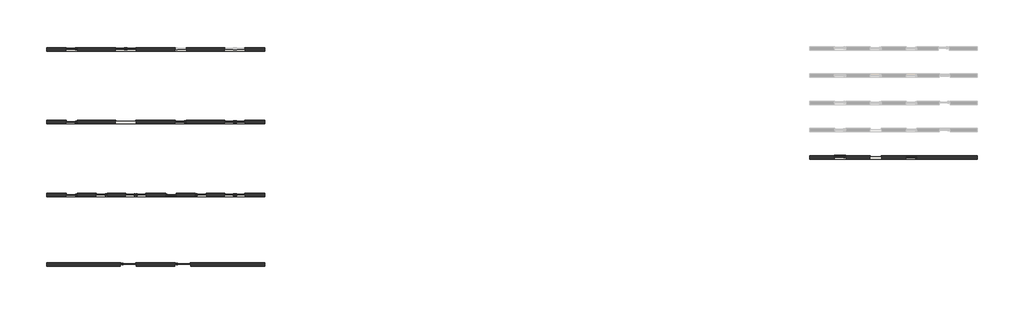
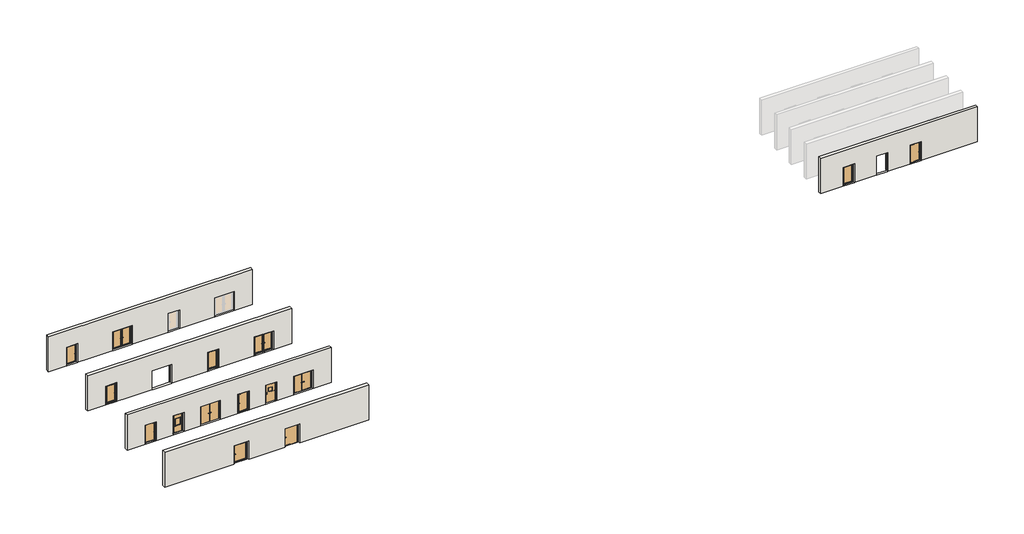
# One storey, part 1 of 2: 15 doors, 5 walls.
"""IFC4 building model written with IfcOpenShell, lengths in millimetres."""

from ifc_helpers import new_model, si_unit, origin, place, context, project, spatial, faceted_brep, transform, mapped, element, save
from components import door_5675c41e, door_eac2dd04, door_0cb914dd, door_9f1bc122, door_febc1c80, door_e621e59b, door_4a962635, door_0cf6bc7c, door_b6b952c1, door_1a9287ff, door_428c05f2, door_09428479, door_1cca69b3, door_5e71b6ac, door_3220e770

model = new_model("IFC4")

# Units and contexts
model_context = context("Model", 3, world=origin())
ifc_project = project(units=[si_unit("LENGTHUNIT", "METRE", prefix="MILLI")], contexts=[model_context])

# Site, building, storey
site = spatial("IfcSite", under=ifc_project)
building = spatial("IfcBuilding", under=site)
storey = spatial("IfcBuildingStorey", under=building, Name="REY 01 - Overview Doors", Elevation=0.0)

# Doors
placement = place(None, origin())
door_shape = door_5675c41e(model_context)
element("IfcDoor", 1, ObjectType="Reynaers_MasterLine 8_Door_Miter_Inward Opening_Double Vent : Reynaers_MasterLine 8_Door_Miter_Inward Opening_Double Vent", at=placement, inside=storey, context=model_context, shape_type="MappedRepresentation", body=[
    mapped(door_shape, transform((-1028.1752344, 9384.5590232, 0.0), x_axis=(-1.0, 0.0, 0.0), y_axis=(0.0, -1.0, 0.0), z_axis=(0.0, 0.0, 1.0))),
])
door_2_shape = door_eac2dd04(model_context)
element("IfcDoor", 2, ObjectType="Reynaers_MasterLine 8_Door_Miter_Inward Opening_Single Vent : Reynaers_MasterLine 8_Door_Miter_Inward Opening_Single Vent", at=placement, inside=storey, context=model_context, shape_type="MappedRepresentation", body=[
    mapped(door_2_shape, transform((-6478.1752344, 9384.5590232, 0.0), x_axis=(-1.0, 0.0, 0.0), y_axis=(0.0, -1.0, 0.0), z_axis=(0.0, 0.0, 1.0))),
])
door_3_shape = door_0cb914dd(model_context)
element("IfcDoor", 3, ObjectType="Reynaers_MasterLine 8_Door_Miter_Inward Opening_Single Vent : Reynaers_MasterLine 8_Door_Miter_Inward Opening_Single Vent", at=placement, inside=storey, context=model_context, shape_type="MappedRepresentation", body=[
    mapped(door_3_shape, transform((71021.8247656, -1515.4409768, 0.0), x_axis=(-1.0, 0.0, 0.0), y_axis=(0.0, -1.0, 0.0), z_axis=(0.0, 0.0, 1.0))),
])
door_4_shape = door_9f1bc122(model_context)
element("IfcDoor", 4, ObjectType="Reynaers_MasterLine 8_Door_Panel_Inward Opening_Double Vent_Double Sided : Reynaers_MasterLine 8_Door_Panel_Inward Opening_Double Vent_Double Sided", at=placement, inside=storey, context=model_context, shape_type="MappedRepresentation", body=[
    mapped(door_4_shape, transform((-28.1752344, -5264.2409768, 0.0), x_axis=(1.0, 0.0, 0.0), y_axis=(0.0, 1.0, 0.0), z_axis=(0.0, 0.0, 1.0))),
])
door_5_shape = door_febc1c80(model_context)
element("IfcDoor", 5, ObjectType="Reynaers_MasterLine 8_Door_Panel_Inward Opening_Single Vent_Double Sided : Reynaers_MasterLine 8_Door_Panel_Inward Opening_Single Vent_Double Sided", at=placement, inside=storey, context=model_context, shape_type="MappedRepresentation", body=[
    mapped(door_5_shape, transform((-6478.1752344, -5264.2409768, 0.0), x_axis=(1.0, 0.0, 0.0), y_axis=(0.0, 1.0, 0.0), z_axis=(0.0, 0.0, 1.0))),
])
door_6_shape = door_e621e59b(model_context)
element("IfcDoor", 6, ObjectType="Reynaers_MasterLine 8_Door_Panel_Inward Opening_Single Vent_Double Sided : Reynaers_MasterLine 8_Door_Panel_Inward Opening_Single Vent_Double Sided", at=placement, inside=storey, context=model_context, shape_type="MappedRepresentation", body=[
    mapped(door_6_shape, transform((78221.8247656, -1464.2409768, 0.0), x_axis=(1.0, 0.0, 0.0), y_axis=(0.0, 1.0, 0.0), z_axis=(0.0, 0.0, 1.0))),
])
door_7_shape = door_4a962635(model_context)
element("IfcDoor", 7, ObjectType="Reynaers_MasterLine 8_Door_Panel_Inward Opening_Single Vent_Spy Window : Reynaers_MasterLine 8_Door_Panel_Inward Opening_Single Vent_Spy Window", at=placement, inside=storey, context=model_context, shape_type="MappedRepresentation", body=[
    mapped(door_7_shape, transform((-3478.1752344, -5264.2409768, 0.0), x_axis=(1.0, 0.0, 0.0), y_axis=(0.0, 1.0, 0.0), z_axis=(0.0, 0.0, 1.0))),
])
door_8_shape = door_0cf6bc7c(model_context)
element("IfcDoor", 8, ObjectType="Reynaers_MasterLine 8_Door_Panel_Outward Opening_Double Vent_Double Sided : Reynaers_MasterLine 8_Door_Panel_Outward Opening_Double Vent_Double Sided", at=placement, inside=storey, context=model_context, shape_type="MappedRepresentation", body=[
    mapped(door_8_shape, transform((9971.8247656, -5264.2409768, 0.0), x_axis=(1.0, 0.0, 0.0), y_axis=(0.0, 1.0, 0.0), z_axis=(0.0, 0.0, 1.0))),
])
door_9_shape = door_b6b952c1(model_context)
element("IfcDoor", 9, ObjectType="Reynaers_MasterLine 8_Door_Panel_Outward Opening_Single Vent_Double Sided : Reynaers_MasterLine 8_Door_Panel_Outward Opening_Single Vent_Double Sided", at=placement, inside=storey, context=model_context, shape_type="MappedRepresentation", body=[
    mapped(door_9_shape, transform((3521.8247656, -5264.2409768, 0.0), x_axis=(1.0, 0.0, 0.0), y_axis=(0.0, 1.0, 0.0), z_axis=(0.0, 0.0, 1.0))),
])
door_10_shape = door_1a9287ff(model_context)
element("IfcDoor", 10, ObjectType="Reynaers_Masterline 8_Door_Panel_Outward Opening_Single Vent_Spy Window : Reynaers_Masterline 8_Door_Panel_Outward Opening_Single Vent_Spy Window", at=placement, inside=storey, context=model_context, shape_type="MappedRepresentation", body=[
    mapped(door_10_shape, transform((6521.8247656, -5264.2409768, 0.0), x_axis=(1.0, 0.0, 0.0), y_axis=(0.0, 1.0, 0.0), z_axis=(0.0, 0.0, 1.0))),
])
door_11_shape = door_428c05f2(model_context)
element("IfcDoor", 11, ObjectType="Reynaers_MasterLine 8_Door_Pivot_Inward Opening_Single Vent_Glass : Reynaers_MasterLine 8_Door_Pivot_Inward Opening_Single Vent_Glass", at=placement, inside=storey, context=model_context, shape_type="MappedRepresentation", body=[
    mapped(door_11_shape, transform((-778.1752344, -12264.2409768, 0.0), x_axis=(1.0, 0.0, 0.0), y_axis=(0.0, 1.0, 0.0), z_axis=(0.0, 0.0, 1.0))),
])
door_12_shape = door_09428479(model_context)
element("IfcDoor", 12, ObjectType="Reynaers_MasterLine 8_Door_Pivot_Inward Opening_Single Vent_Panel : Reynaers_MasterLine 8_Door_Pivot_Inward Opening_Single Vent_Panel", at=placement, inside=storey, context=model_context, shape_type="MappedRepresentation", body=[
    mapped(door_12_shape, transform((4721.8247656, -12211.2409768, 0.0), x_axis=(1.0, 0.0, 0.0), y_axis=(0.0, 1.0, 0.0), z_axis=(0.0, 0.0, 1.0))),
])
door_13_shape = door_1cca69b3(model_context)
element("IfcDoor", 13, ObjectType="Reynaers_MasterLine 8_Door_Plinth_Inward Opening_Single Vent : Reynaers_MasterLine 8_Door_Plinth_Inward Opening_Single Vent", at=placement, inside=storey, context=model_context, shape_type="MappedRepresentation", body=[
    mapped(door_13_shape, transform((-6478.1752344, 2074.5590232, 0.0), x_axis=(1.0, 0.0, 0.0), y_axis=(0.0, 1.0, 0.0), z_axis=(0.0, 0.0, 1.0))),
])
door_14_shape = door_5e71b6ac(model_context)
element("IfcDoor", 14, ObjectType="Reynaers_MasterLine 8_Door_Plinth_Outward Opening_Double Vent : Reynaers_MasterLine 8_Door_Plinth_Outward Opening_Double Vent", at=placement, inside=storey, context=model_context, shape_type="MappedRepresentation", body=[
    mapped(door_14_shape, transform((9971.8247656, 2085.7590232, 0.0), x_axis=(1.0, 0.0, 0.0), y_axis=(0.0, 1.0, 0.0), z_axis=(0.0, 0.0, 1.0))),
])
door_15_shape = door_3220e770(model_context)
element("IfcDoor", 15, ObjectType="Reynaers_MasterLine 8_Door_Plinth_Outward Opening_Single Vent : Reynaers_MasterLine 8_Door_Plinth_Outward Opening_Single Vent", at=placement, inside=storey, context=model_context, shape_type="MappedRepresentation", body=[
    mapped(door_15_shape, transform((4521.8247656, 2085.7590232, 0.0), x_axis=(-1.0, 0.0, 0.0), y_axis=(0.0, -1.0, 0.0), z_axis=(0.0, 0.0, 1.0))),
])

# Walls
element("IfcWall", 16, ObjectType="21_SPM_90-30-80-140-10", at=placement, inside=storey, context=model_context, shape_type="Brep", body=[
    faceted_brep([(-9028.1752344, -5439.2409768, 0.0), (12971.8247656, -5439.2409768, 0.0), (12971.8247656, -5439.2409768, 4000.0), (-9028.1752344, -5439.2409768, 4000.0), (-7078.1752344, -5439.2409768, 2150.0), (-5878.1752344, -5439.2409768, 2150.0), (-5878.1752344, -5439.2409768, 1.0), (-7078.1752344, -5439.2409768, 1.0), (-4078.1752344, -5439.2409768, 2150.0), (-2878.1752344, -5439.2409768, 2150.0), (-2878.1752344, -5439.2409768, 1.0), (-4078.1752344, -5439.2409768, 1.0), (5921.8247656, -5439.2409768, 2150.0), (7121.8247656, -5439.2409768, 2150.0), (7121.8247656, -5439.2409768, 1.0), (5921.8247656, -5439.2409768, 1.0), (2921.8247656, -5439.2409768, 2150.0), (4121.8247656, -5439.2409768, 2150.0), (4121.8247656, -5439.2409768, 1.0), (2921.8247656, -5439.2409768, 1.0), (8921.8247656, -5439.2409768, 2150.0), (11021.8247656, -5439.2409768, 2150.0), (11021.8247656, -5439.2409768, 20.0), (8921.8247656, -5439.2409768, 20.0), (-1078.1752344, -5439.2409768, 2150.0), (1021.8247656, -5439.2409768, 2150.0), (1021.8247656, -5439.2409768, 5.0), (-1078.1752344, -5439.2409768, 5.0), (12971.8247656, -5089.2409768, 4000.0), (12971.8247656, -5089.2409768, 0.0), (10971.8247656, -5089.2409768, 0.0), (10971.8247656, -5089.2409768, 2100.0), (8971.8247656, -5089.2409768, 2100.0), (8971.8247656, -5089.2409768, 0.0), (7071.8247656, -5089.2409768, 0.0), (7071.8247656, -5089.2409768, 2100.0), (5971.8247656, -5089.2409768, 2100.0), (5971.8247656, -5089.2409768, 0.0), (4071.8247656, -5089.2409768, 0.0), (4071.8247656, -5089.2409768, 2100.0), (2971.8247656, -5089.2409768, 2100.0), (2971.8247656, -5089.2409768, 0.0), (971.8247656, -5089.2409768, 0.0), (971.8247656, -5089.2409768, 2100.0), (-1028.1752344, -5089.2409768, 2100.0), (-1028.1752344, -5089.2409768, 0.0), (-2928.1752344, -5089.2409768, 0.0), (-2928.1752344, -5089.2409768, 2100.0), (-4028.1752344, -5089.2409768, 2100.0), (-4028.1752344, -5089.2409768, 0.0), (-5928.1752344, -5089.2409768, 0.0), (-5928.1752344, -5089.2409768, 2100.0), (-7028.1752344, -5089.2409768, 2100.0), (-7028.1752344, -5089.2409768, 0.0), (-9028.1752344, -5089.2409768, 0.0), (-9028.1752344, -5089.2409768, 4000.0), (-7028.1752344, -5216.7409768, 0.0), (-5928.1752344, -5216.7409768, 0.0), (-4028.1752344, -5179.2409768, 0.0), (-2928.1752344, -5179.2409768, 0.0), (-1028.1752344, -5179.2409768, 0.0), (971.8247656, -5179.2409768, 0.0), (2971.8247656, -5216.7409768, 0.0), (4071.8247656, -5216.7409768, 0.0), (5971.8247656, -5179.2409768, 0.0), (7071.8247656, -5179.2409768, 0.0), (8971.8247656, -5179.2409768, 0.0), (10971.8247656, -5179.2409768, 0.0), (-5928.1752344, -5216.7409768, 2100.0), (-7028.1752344, -5216.7409768, 2100.0), (-7028.1752344, -5216.7409768, 1.0), (-5928.1752344, -5216.7409768, 1.0), (-5878.1752344, -5216.7409768, 2150.0), (-7078.1752344, -5216.7409768, 2150.0), (-7078.1752344, -5216.7409768, 1.0), (-5878.1752344, -5216.7409768, 1.0), (-2928.1752344, -5179.2409768, 2100.0), (-4028.1752344, -5179.2409768, 2100.0), (-4028.1752344, -5179.2409768, 1.0), (-2928.1752344, -5179.2409768, 1.0), (-2878.1752344, -5179.2409768, 2150.0), (-4078.1752344, -5179.2409768, 2150.0), (-4078.1752344, -5179.2409768, 1.0), (-2878.1752344, -5179.2409768, 1.0), (7071.8247656, -5179.2409768, 2100.0), (5971.8247656, -5179.2409768, 2100.0), (5971.8247656, -5179.2409768, 1.0), (7071.8247656, -5179.2409768, 1.0), (7121.8247656, -5179.2409768, 2150.0), (5921.8247656, -5179.2409768, 2150.0), (5921.8247656, -5179.2409768, 1.0), (7121.8247656, -5179.2409768, 1.0), (4071.8247656, -5216.7409768, 2100.0), (2971.8247656, -5216.7409768, 2100.0), (2971.8247656, -5216.7409768, 1.0), (4071.8247656, -5216.7409768, 1.0), (4121.8247656, -5216.7409768, 2150.0), (2921.8247656, -5216.7409768, 2150.0), (2921.8247656, -5216.7409768, 1.0), (4121.8247656, -5216.7409768, 1.0), (10971.8247656, -5179.2409768, 2100.0), (8971.8247656, -5179.2409768, 2100.0), (8971.8247656, -5179.2409768, 20.0), (10971.8247656, -5179.2409768, 20.0), (11021.8247656, -5179.2409768, 2150.0), (8921.8247656, -5179.2409768, 2150.0), (8921.8247656, -5179.2409768, 20.0), (11021.8247656, -5179.2409768, 20.0), (971.8247656, -5179.2409768, 2100.0), (-1028.1752344, -5179.2409768, 2100.0), (-1028.1752344, -5179.2409768, 5.0), (971.8247656, -5179.2409768, 5.0), (1021.8247656, -5179.2409768, 2150.0), (-1078.1752344, -5179.2409768, 2150.0), (-1078.1752344, -5179.2409768, 5.0), (1021.8247656, -5179.2409768, 5.0)], [[[0, 1, 2, 3], [4, 5, 6, 7], [8, 9, 10, 11], [12, 13, 14, 15], [16, 17, 18, 19], [20, 21, 22, 23], [24, 25, 26, 27]], [[28, 29, 30, 31, 32, 33, 34, 35, 36, 37, 38, 39, 40, 41, 42, 43, 44, 45, 46, 47, 48, 49, 50, 51, 52, 53, 54, 55]], [[1, 0, 54, 53, 56, 57, 50, 49, 58, 59, 46, 45, 60, 61, 42, 41, 62, 63, 38, 37, 64, 65, 34, 33, 66, 67, 30, 29]], [[2, 1, 29, 28]], [[3, 2, 28, 55]], [[0, 3, 55, 54]], [[51, 68, 69, 52]], [[52, 69, 70, 56, 53]], [[56, 70, 71, 57]], [[68, 51, 50, 57, 71]], [[72, 5, 4, 73]], [[71, 70, 74, 7, 6, 75]], [[69, 68, 71, 75, 72, 73, 74, 70]], [[73, 4, 7, 74]], [[5, 72, 75, 6]], [[47, 76, 77, 48]], [[48, 77, 78, 58, 49]], [[58, 78, 79, 59]], [[76, 47, 46, 59, 79]], [[80, 9, 8, 81]], [[79, 78, 82, 11, 10, 83]], [[77, 76, 79, 83, 80, 81, 82, 78]], [[81, 8, 11, 82]], [[9, 80, 83, 10]], [[35, 84, 85, 36]], [[36, 85, 86, 64, 37]], [[64, 86, 87, 65]], [[84, 35, 34, 65, 87]], [[88, 13, 12, 89]], [[87, 86, 90, 15, 14, 91]], [[85, 84, 87, 91, 88, 89, 90, 86]], [[89, 12, 15, 90]], [[13, 88, 91, 14]], [[39, 92, 93, 40]], [[40, 93, 94, 62, 41]], [[62, 94, 95, 63]], [[92, 39, 38, 63, 95]], [[96, 17, 16, 97]], [[95, 94, 98, 19, 18, 99]], [[93, 92, 95, 99, 96, 97, 98, 94]], [[97, 16, 19, 98]], [[17, 96, 99, 18]], [[31, 100, 101, 32]], [[32, 101, 102, 66, 33]], [[66, 102, 103, 67]], [[100, 31, 30, 67, 103]], [[104, 21, 20, 105]], [[103, 102, 106, 23, 22, 107]], [[101, 100, 103, 107, 104, 105, 106, 102]], [[105, 20, 23, 106]], [[21, 104, 107, 22]], [[43, 108, 109, 44]], [[44, 109, 110, 60, 45]], [[60, 110, 111, 61]], [[108, 43, 42, 61, 111]], [[112, 25, 24, 113]], [[111, 110, 114, 27, 26, 115]], [[109, 108, 111, 115, 112, 113, 114, 110]], [[113, 24, 27, 114]], [[25, 112, 115, 26]]]),
])
element("IfcWall", 17, ObjectType="21_SPM_90-30-80-140-10", at=placement, inside=storey, context=model_context, shape_type="Brep", body=[
    faceted_brep([(-9028.1752344, 1910.7590232, 0.0), (12971.8247656, 1910.7590232, 0.0), (12971.8247656, 1910.7590232, 4000.0), (-9028.1752344, 1910.7590232, 4000.0), (-7078.1752344, 1910.7590232, 2150.0), (-5878.1752344, 1910.7590232, 2150.0), (-5878.1752344, 1910.7590232, 1.0), (-7078.1752344, 1910.7590232, 1.0), (-2078.1752344, 1910.7590232, 2150.0), (21.8247656, 1910.7590232, 2150.0), (21.8247656, 1910.7590232, 1.0), (-2078.1752344, 1910.7590232, 1.0), (3921.8247656, 1910.7590232, 2150.0), (5121.8247656, 1910.7590232, 2150.0), (5121.8247656, 1910.7590232, 1.0), (3921.8247656, 1910.7590232, 1.0), (8921.8247656, 1910.7590232, 2150.0), (11021.8247656, 1910.7590232, 2150.0), (11021.8247656, 1910.7590232, 1.0), (8921.8247656, 1910.7590232, 1.0), (12971.8247656, 2260.7590232, 4000.0), (12971.8247656, 2260.7590232, 0.0), (10971.8247656, 2260.7590232, 0.0), (10971.8247656, 2260.7590232, 2100.0), (8971.8247656, 2260.7590232, 2100.0), (8971.8247656, 2260.7590232, 0.0), (5071.8247656, 2260.7590232, 0.0), (5071.8247656, 2260.7590232, 2100.0), (3971.8247656, 2260.7590232, 2100.0), (3971.8247656, 2260.7590232, 0.0), (-28.1752344, 2260.7590232, 0.0), (-28.1752344, 2260.7590232, 2100.0), (-2028.1752344, 2260.7590232, 2100.0), (-2028.1752344, 2260.7590232, 0.0), (-5928.1752344, 2260.7590232, 0.0), (-5928.1752344, 2260.7590232, 2100.0), (-7028.1752344, 2260.7590232, 2100.0), (-7028.1752344, 2260.7590232, 0.0), (-9028.1752344, 2260.7590232, 0.0), (-9028.1752344, 2260.7590232, 4000.0), (-7028.1752344, 2133.2590232, 0.0), (-5928.1752344, 2133.2590232, 0.0), (-2028.1752344, 2170.7590232, 0.0), (-28.1752344, 2170.7590232, 0.0), (3971.8247656, 2170.7590232, 0.0), (5071.8247656, 2170.7590232, 0.0), (8971.8247656, 2170.7590232, 0.0), (10971.8247656, 2170.7590232, 0.0), (-5928.1752344, 2133.2590232, 2100.0), (-7028.1752344, 2133.2590232, 2100.0), (-7028.1752344, 2133.2590232, 1.0), (-5928.1752344, 2133.2590232, 1.0), (-5878.1752344, 2133.2590232, 2150.0), (-7078.1752344, 2133.2590232, 2150.0), (-7078.1752344, 2133.2590232, 1.0), (-5878.1752344, 2133.2590232, 1.0), (-28.1752344, 2170.7590232, 2100.0), (-2028.1752344, 2170.7590232, 2100.0), (-2028.1752344, 2170.7590232, 1.0), (-28.1752344, 2170.7590232, 1.0), (21.8247656, 2170.7590232, 2150.0), (-2078.1752344, 2170.7590232, 2150.0), (-2078.1752344, 2170.7590232, 1.0), (21.8247656, 2170.7590232, 1.0), (3971.8247656, 2170.7590232, 2100.0), (5071.8247656, 2170.7590232, 2100.0), (5071.8247656, 2170.7590232, 1.0), (3971.8247656, 2170.7590232, 1.0), (3921.8247656, 2170.7590232, 2150.0), (5121.8247656, 2170.7590232, 2150.0), (3921.8247656, 2170.7590232, 1.0), (5121.8247656, 2170.7590232, 1.0), (10971.8247656, 2170.7590232, 2100.0), (8971.8247656, 2170.7590232, 2100.0), (8971.8247656, 2170.7590232, 1.0), (10971.8247656, 2170.7590232, 1.0), (11021.8247656, 2170.7590232, 2150.0), (8921.8247656, 2170.7590232, 2150.0), (8921.8247656, 2170.7590232, 1.0), (11021.8247656, 2170.7590232, 1.0)], [[[0, 1, 2, 3], [4, 5, 6, 7], [8, 9, 10, 11], [12, 13, 14, 15], [16, 17, 18, 19]], [[20, 21, 22, 23, 24, 25, 26, 27, 28, 29, 30, 31, 32, 33, 34, 35, 36, 37, 38, 39]], [[1, 0, 38, 37, 40, 41, 34, 33, 42, 43, 30, 29, 44, 45, 26, 25, 46, 47, 22, 21]], [[2, 1, 21, 20]], [[3, 2, 20, 39]], [[0, 3, 39, 38]], [[35, 48, 49, 36]], [[36, 49, 50, 40, 37]], [[40, 50, 51, 41]], [[48, 35, 34, 41, 51]], [[52, 5, 4, 53]], [[51, 50, 54, 7, 6, 55]], [[49, 48, 51, 55, 52, 53, 54, 50]], [[53, 4, 7, 54]], [[5, 52, 55, 6]], [[31, 56, 57, 32]], [[32, 57, 58, 42, 33]], [[42, 58, 59, 43]], [[56, 31, 30, 43, 59]], [[60, 9, 8, 61]], [[59, 58, 62, 11, 10, 63]], [[57, 56, 59, 63, 60, 61, 62, 58]], [[61, 8, 11, 62]], [[9, 60, 63, 10]], [[64, 28, 27, 65]], [[65, 27, 26, 45, 66]], [[66, 45, 44, 67]], [[28, 64, 67, 44, 29]], [[12, 68, 69, 13]], [[66, 67, 70, 15, 14, 71]], [[64, 65, 66, 71, 69, 68, 70, 67]], [[13, 69, 71, 14]], [[68, 12, 15, 70]], [[23, 72, 73, 24]], [[24, 73, 74, 46, 25]], [[46, 74, 75, 47]], [[72, 23, 22, 47, 75]], [[76, 17, 16, 77]], [[75, 74, 78, 19, 18, 79]], [[73, 72, 75, 79, 76, 77, 78, 74]], [[77, 16, 19, 78]], [[17, 76, 79, 18]]]),
])
element("IfcWall", 18, ObjectType="21_SPM_90-30-80-140-10", at=placement, inside=storey, context=model_context, shape_type="Brep", body=[
    faceted_brep([(-9028.1752344, 9260.7590232, 0.0), (12971.8247656, 9260.7590232, 0.0), (12971.8247656, 9260.7590232, 4000.0), (-9028.1752344, 9260.7590232, 4000.0), (-7078.1752344, 9260.7590232, 2150.0), (-5878.1752344, 9260.7590232, 2150.0), (-5878.1752344, 9260.7590232, 1.0), (-7078.1752344, 9260.7590232, 1.0), (-2078.1752344, 9260.7590232, 2150.0), (21.8247656, 9260.7590232, 2150.0), (21.8247656, 9260.7590232, 1.0), (-2078.1752344, 9260.7590232, 1.0), (3921.8247656, 9260.7590232, 2150.0), (5121.8247656, 9260.7590232, 2150.0), (5121.8247656, 9260.7590232, 1.0), (3921.8247656, 9260.7590232, 1.0), (8921.8247656, 9260.7590232, 2150.0), (11021.8247656, 9260.7590232, 2150.0), (11021.8247656, 9260.7590232, 1.0), (8921.8247656, 9260.7590232, 1.0), (12971.8247656, 9610.7590232, 4000.0), (12971.8247656, 9610.7590232, 0.0), (10971.8247656, 9610.7590232, 0.0), (10971.8247656, 9610.7590232, 2100.0), (8971.8247656, 9610.7590232, 2100.0), (8971.8247656, 9610.7590232, 0.0), (5071.8247656, 9610.7590232, 0.0), (5071.8247656, 9610.7590232, 2100.0), (3971.8247656, 9610.7590232, 2100.0), (3971.8247656, 9610.7590232, 0.0), (-28.1752344, 9610.7590232, 0.0), (-28.1752344, 9610.7590232, 2100.0), (-2028.1752344, 9610.7590232, 2100.0), (-2028.1752344, 9610.7590232, 0.0), (-5928.1752344, 9610.7590232, 0.0), (-5928.1752344, 9610.7590232, 2100.0), (-7028.1752344, 9610.7590232, 2100.0), (-7028.1752344, 9610.7590232, 0.0), (-9028.1752344, 9610.7590232, 0.0), (-9028.1752344, 9610.7590232, 4000.0), (-7028.1752344, 9520.7590232, 0.0), (-5928.1752344, 9520.7590232, 0.0), (-2028.1752344, 9520.7590232, 0.0), (-28.1752344, 9520.7590232, 0.0), (3971.8247656, 9520.7590232, 0.0), (5071.8247656, 9520.7590232, 0.0), (8971.8247656, 9520.7590232, 0.0), (10971.8247656, 9520.7590232, 0.0), (-5928.1752344, 9520.7590232, 2100.0), (-7028.1752344, 9520.7590232, 2100.0), (-5928.1752344, 9520.7590232, 1.0), (-7028.1752344, 9520.7590232, 1.0), (-7078.1752344, 9520.7590232, 2150.0), (-5878.1752344, 9520.7590232, 2150.0), (-7078.1752344, 9520.7590232, 1.0), (-5878.1752344, 9520.7590232, 1.0), (-28.1752344, 9520.7590232, 2100.0), (-2028.1752344, 9520.7590232, 2100.0), (-28.1752344, 9520.7590232, 1.0), (-2028.1752344, 9520.7590232, 1.0), (-2078.1752344, 9520.7590232, 2150.0), (21.8247656, 9520.7590232, 2150.0), (-2078.1752344, 9520.7590232, 1.0), (21.8247656, 9520.7590232, 1.0), (5071.8247656, 9520.7590232, 2100.0), (3971.8247656, 9520.7590232, 2100.0), (3971.8247656, 9520.7590232, 1.0), (5071.8247656, 9520.7590232, 1.0), (5121.8247656, 9520.7590232, 2150.0), (3921.8247656, 9520.7590232, 2150.0), (3921.8247656, 9520.7590232, 1.0), (5121.8247656, 9520.7590232, 1.0), (10971.8247656, 9520.7590232, 2100.0), (8971.8247656, 9520.7590232, 2100.0), (8971.8247656, 9520.7590232, 1.0), (10971.8247656, 9520.7590232, 1.0), (11021.8247656, 9520.7590232, 2150.0), (8921.8247656, 9520.7590232, 2150.0), (8921.8247656, 9520.7590232, 1.0), (11021.8247656, 9520.7590232, 1.0)], [[[0, 1, 2, 3], [4, 5, 6, 7], [8, 9, 10, 11], [12, 13, 14, 15], [16, 17, 18, 19]], [[20, 21, 22, 23, 24, 25, 26, 27, 28, 29, 30, 31, 32, 33, 34, 35, 36, 37, 38, 39]], [[1, 0, 38, 37, 40, 41, 34, 33, 42, 43, 30, 29, 44, 45, 26, 25, 46, 47, 22, 21]], [[2, 1, 21, 20]], [[3, 2, 20, 39]], [[0, 3, 39, 38]], [[35, 48, 49, 36]], [[48, 35, 34, 41, 50]], [[50, 41, 40, 51]], [[36, 49, 51, 40, 37]], [[52, 53, 5, 4]], [[50, 51, 54, 7, 6, 55]], [[49, 48, 50, 55, 53, 52, 54, 51]], [[5, 53, 55, 6]], [[52, 4, 7, 54]], [[31, 56, 57, 32]], [[56, 31, 30, 43, 58]], [[58, 43, 42, 59]], [[32, 57, 59, 42, 33]], [[60, 61, 9, 8]], [[58, 59, 62, 11, 10, 63]], [[57, 56, 58, 63, 61, 60, 62, 59]], [[9, 61, 63, 10]], [[60, 8, 11, 62]], [[27, 64, 65, 28]], [[28, 65, 66, 44, 29]], [[44, 66, 67, 45]], [[64, 27, 26, 45, 67]], [[68, 13, 12, 69]], [[67, 66, 70, 15, 14, 71]], [[65, 64, 67, 71, 68, 69, 70, 66]], [[69, 12, 15, 70]], [[13, 68, 71, 14]], [[23, 72, 73, 24]], [[24, 73, 74, 46, 25]], [[46, 74, 75, 47]], [[72, 23, 22, 47, 75]], [[76, 17, 16, 77]], [[75, 74, 78, 19, 18, 79]], [[73, 72, 75, 79, 76, 77, 78, 74]], [[77, 16, 19, 78]], [[17, 76, 79, 18]]]),
])
element("IfcWall", 19, ObjectType="21_SPM_90-30-80-140-10", at=placement, inside=storey, context=model_context, shape_type="Brep", body=[
    faceted_brep([(67971.8247656, -1639.2409768, 0.0), (84871.8247656, -1639.2409768, 0.0), (84871.8247656, -1639.2409768, 4000.0), (67971.8247656, -1639.2409768, 4000.0), (70421.8247656, -1639.2409768, 2150.0), (71621.8247656, -1639.2409768, 2150.0), (71621.8247656, -1639.2409768, 1.0), (70421.8247656, -1639.2409768, 1.0), (74021.8247656, -1639.2409768, 2150.0), (75221.8247656, -1639.2409768, 2150.0), (75221.8247656, -1639.2409768, 1.0), (74021.8247656, -1639.2409768, 1.0), (77621.8247656, -1639.2409768, 2150.0), (78821.8247656, -1639.2409768, 2150.0), (78821.8247656, -1639.2409768, 1.0), (77621.8247656, -1639.2409768, 1.0), (84871.8247656, -1289.2409768, 4000.0), (84871.8247656, -1289.2409768, 0.0), (78771.8247656, -1289.2409768, 0.0), (78771.8247656, -1289.2409768, 2100.0), (77671.8247656, -1289.2409768, 2100.0), (77671.8247656, -1289.2409768, 0.0), (75171.8247656, -1289.2409768, 0.0), (75171.8247656, -1289.2409768, 2100.0), (74071.8247656, -1289.2409768, 2100.0), (74071.8247656, -1289.2409768, 0.0), (71571.8247656, -1289.2409768, 0.0), (71571.8247656, -1289.2409768, 2100.0), (70471.8247656, -1289.2409768, 2100.0), (70471.8247656, -1289.2409768, 0.0), (67971.8247656, -1289.2409768, 0.0), (67971.8247656, -1289.2409768, 4000.0), (70471.8247656, -1379.2409768, 0.0), (71571.8247656, -1379.2409768, 0.0), (74071.8247656, -1416.7409768, 0.0), (75171.8247656, -1416.7409768, 0.0), (77671.8247656, -1416.7409768, 0.0), (78771.8247656, -1416.7409768, 0.0), (71571.8247656, -1379.2409768, 2100.0), (70471.8247656, -1379.2409768, 2100.0), (71571.8247656, -1379.2409768, 1.0), (70471.8247656, -1379.2409768, 1.0), (70421.8247656, -1379.2409768, 2150.0), (71621.8247656, -1379.2409768, 2150.0), (70421.8247656, -1379.2409768, 1.0), (71621.8247656, -1379.2409768, 1.0), (75171.8247656, -1416.7409768, 2100.0), (74071.8247656, -1416.7409768, 2100.0), (74071.8247656, -1416.7409768, 1.0), (75171.8247656, -1416.7409768, 1.0), (75221.8247656, -1416.7409768, 2150.0), (74021.8247656, -1416.7409768, 2150.0), (74021.8247656, -1416.7409768, 1.0), (75221.8247656, -1416.7409768, 1.0), (78771.8247656, -1416.7409768, 2100.0), (77671.8247656, -1416.7409768, 2100.0), (77671.8247656, -1416.7409768, 1.0), (78771.8247656, -1416.7409768, 1.0), (78821.8247656, -1416.7409768, 2150.0), (77621.8247656, -1416.7409768, 2150.0), (77621.8247656, -1416.7409768, 1.0), (78821.8247656, -1416.7409768, 1.0)], [[[0, 1, 2, 3], [4, 5, 6, 7], [8, 9, 10, 11], [12, 13, 14, 15]], [[16, 17, 18, 19, 20, 21, 22, 23, 24, 25, 26, 27, 28, 29, 30, 31]], [[1, 0, 30, 29, 32, 33, 26, 25, 34, 35, 22, 21, 36, 37, 18, 17]], [[2, 1, 17, 16]], [[3, 2, 16, 31]], [[0, 3, 31, 30]], [[27, 38, 39, 28]], [[38, 27, 26, 33, 40]], [[40, 33, 32, 41]], [[28, 39, 41, 32, 29]], [[42, 43, 5, 4]], [[40, 41, 44, 7, 6, 45]], [[39, 38, 40, 45, 43, 42, 44, 41]], [[5, 43, 45, 6]], [[42, 4, 7, 44]], [[23, 46, 47, 24]], [[24, 47, 48, 34, 25]], [[34, 48, 49, 35]], [[46, 23, 22, 35, 49]], [[50, 9, 8, 51]], [[49, 48, 52, 11, 10, 53]], [[47, 46, 49, 53, 50, 51, 52, 48]], [[51, 8, 11, 52]], [[9, 50, 53, 10]], [[19, 54, 55, 20]], [[20, 55, 56, 36, 21]], [[36, 56, 57, 37]], [[54, 19, 18, 37, 57]], [[58, 13, 12, 59]], [[57, 56, 60, 15, 14, 61]], [[55, 54, 57, 61, 58, 59, 60, 56]], [[59, 12, 15, 60]], [[13, 58, 61, 14]]]),
])
element("IfcWall", 20, ObjectType="21_SPM_90-30-80-140-10", at=placement, inside=storey, context=model_context, shape_type="Brep", body=[
    faceted_brep([(12971.8247656, -12439.2409768, 0.0), (12971.8247656, -12439.2409768, 4000.0), (-9028.1752344, -12439.2409768, 4000.0), (-9028.1752344, -12439.2409768, 0.0), (-1578.1752344, -12439.2409768, 0.0), (-1578.1752344, -12439.2409768, 2150.0), (21.8247656, -12439.2409768, 2150.0), (21.8247656, -12439.2409768, 0.0), (3921.8247656, -12439.2409768, 0.0), (3921.8247656, -12439.2409768, 2150.0), (5521.8247656, -12439.2409768, 2150.0), (5521.8247656, -12439.2409768, 0.0), (12971.8247656, -12089.2409768, 4000.0), (12971.8247656, -12089.2409768, 0.0), (5471.8247656, -12089.2409768, 0.0), (5471.8247656, -12089.2409768, 2100.0), (3971.8247656, -12089.2409768, 2100.0), (3971.8247656, -12089.2409768, 0.0), (-28.1752344, -12089.2409768, 0.0), (-28.1752344, -12089.2409768, 2100.0), (-1528.1752344, -12089.2409768, 2100.0), (-1528.1752344, -12089.2409768, 0.0), (-9028.1752344, -12089.2409768, 0.0), (-9028.1752344, -12089.2409768, 4000.0), (5521.8247656, -12179.2409768, 0.0), (5471.8247656, -12179.2409768, 0.0), (-1528.1752344, -12179.2409768, 0.0), (-1578.1752344, -12179.2409768, 0.0), (-28.1752344, -12179.2409768, 0.0), (3971.8247656, -12179.2409768, 0.0), (3921.8247656, -12179.2409768, 0.0), (21.8247656, -12179.2409768, 0.0), (-28.1752344, -12179.2409768, 2100.0), (-1528.1752344, -12179.2409768, 2100.0), (21.8247656, -12179.2409768, 2150.0), (-1578.1752344, -12179.2409768, 2150.0), (5471.8247656, -12179.2409768, 2100.0), (3971.8247656, -12179.2409768, 2100.0), (5521.8247656, -12179.2409768, 2150.0), (3921.8247656, -12179.2409768, 2150.0)], [[[0, 1, 2, 3, 4, 5, 6, 7, 8, 9, 10, 11]], [[12, 13, 14, 15, 16, 17, 18, 19, 20, 21, 22, 23]], [[13, 0, 11, 24, 25, 14]], [[3, 22, 21, 26, 27, 4]], [[28, 18, 17, 29, 30, 8, 7, 31]], [[1, 0, 13, 12]], [[2, 1, 12, 23]], [[3, 2, 23, 22]], [[19, 32, 33, 20]], [[20, 33, 26, 21]], [[32, 19, 18, 28]], [[34, 6, 5, 35]], [[33, 32, 28, 31, 34, 35, 27, 26]], [[35, 5, 4, 27]], [[6, 34, 31, 7]], [[15, 36, 37, 16]], [[16, 37, 29, 17]], [[36, 15, 14, 25]], [[38, 10, 9, 39]], [[37, 36, 25, 24, 38, 39, 30, 29]], [[39, 9, 8, 30]], [[10, 38, 24, 11]]]),
])

save(model, "model.ifc")
